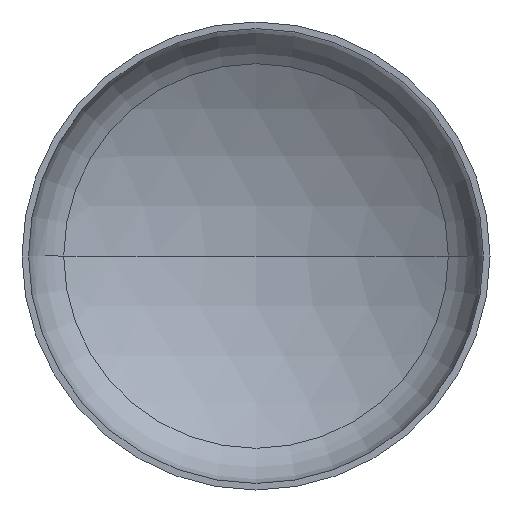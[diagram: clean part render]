
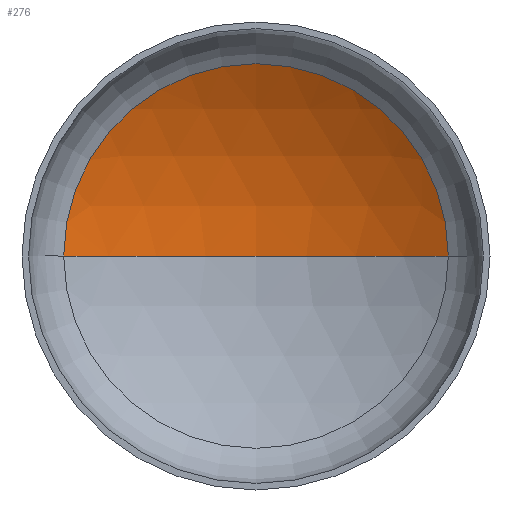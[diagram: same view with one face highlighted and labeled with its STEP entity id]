
A CAD part, front view. The second image highlights one B-rep face of the part: STEP entity #276.
In plain terms, the highlighted spherical face has radius 284 mm.
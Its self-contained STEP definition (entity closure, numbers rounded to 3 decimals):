
#3 = DIRECTION ( 'NONE',  ( 0., 0., -1. ) ) ;
#6 = FACE_OUTER_BOUND ( 'NONE', #14, .T. ) ;
#14 = EDGE_LOOP ( 'NONE', ( #44, #108, #112 ) ) ;
#19 = CARTESIAN_POINT ( 'NONE',  ( 0., -176.378, 0. ) ) ;
#29 = DIRECTION ( 'NONE',  ( -1., 0., 0. ) ) ;
#34 = DIRECTION ( 'NONE',  ( 0., 0., 1. ) ) ;
#44 = ORIENTED_EDGE ( 'NONE', *, *, #191, .F. ) ;
#46 = VERTEX_POINT ( 'NONE', #216 ) ;
#50 = CIRCLE ( 'NONE', #409, 284. ) ;
#73 = DIRECTION ( 'NONE',  ( 0., 0., -1. ) ) ;
#89 = AXIS2_PLACEMENT_3D ( 'NONE', #405, #34, #275 ) ;
#93 = VERTEX_POINT ( 'NONE', #204 ) ;
#108 = ORIENTED_EDGE ( 'NONE', *, *, #174, .T. ) ;
#112 = ORIENTED_EDGE ( 'NONE', *, *, #150, .T. ) ;
#119 = DIRECTION ( 'NONE',  ( -1., 0., 0. ) ) ;
#134 = VERTEX_POINT ( 'NONE', #337 ) ;
#150 = EDGE_CURVE ( 'NONE', #134, #46, #396, .T. ) ;
#165 = DIRECTION ( 'NONE',  ( 0., -1., 0. ) ) ;
#174 = EDGE_CURVE ( 'NONE', #93, #134, #50, .T. ) ;
#191 = EDGE_CURVE ( 'NONE', #93, #46, #242, .T. ) ;
#204 = CARTESIAN_POINT ( 'NONE',  ( 0., 107.622, 0. ) ) ;
#216 = CARTESIAN_POINT ( 'NONE',  ( -146.093, 67.165, 0. ) ) ;
#220 = SPHERICAL_SURFACE ( 'NONE', #284, 284. ) ;
#242 = CIRCLE ( 'NONE', #89, 284. ) ;
#275 = DIRECTION ( 'NONE',  ( 1., 0., 0. ) ) ;
#276 = ADVANCED_FACE ( 'NONE', ( #6 ), #220, .F. ) ;
#284 = AXIS2_PLACEMENT_3D ( 'NONE', #19, #73, #119 ) ;
#288 = DIRECTION ( 'NONE',  ( 1., 0., 0. ) ) ;
#290 = CARTESIAN_POINT ( 'NONE',  ( 0., 67.165, 0. ) ) ;
#337 = CARTESIAN_POINT ( 'NONE',  ( 146.093, 67.165, 0. ) ) ;
#355 = AXIS2_PLACEMENT_3D ( 'NONE', #290, #165, #288 ) ;
#366 = CARTESIAN_POINT ( 'NONE',  ( 0., -176.378, 0. ) ) ;
#396 = CIRCLE ( 'NONE', #355, 146.093 ) ;
#405 = CARTESIAN_POINT ( 'NONE',  ( 0., -176.378, 0. ) ) ;
#409 = AXIS2_PLACEMENT_3D ( 'NONE', #366, #3, #29 ) ;
